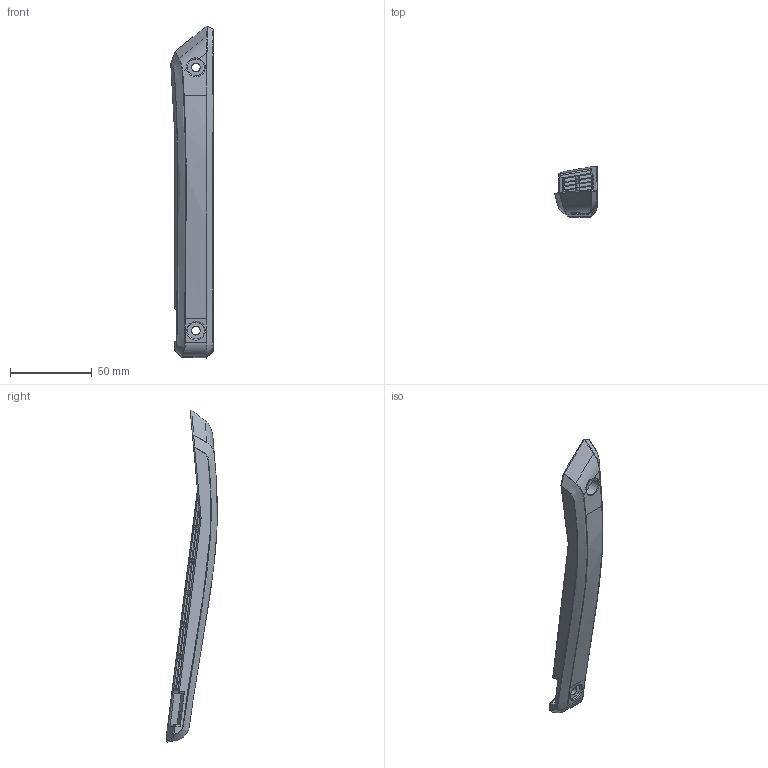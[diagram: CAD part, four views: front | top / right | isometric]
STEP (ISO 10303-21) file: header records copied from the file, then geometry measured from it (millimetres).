
FILE_DESCRIPTION((''),'2;1');
FILE_NAME('P6L0001','2024-11-23T14:41:48',('43322'),(''),'CREO PARAMETRIC BY PTC INC, 2023073','CREO PARAMETRIC BY PTC INC, 2023073','');
FILE_SCHEMA(('CONFIG_CONTROL_DESIGN'));
Products named in the file (1): P6L0001
Bounding box: 26.08 x 31.27 x 203.61 mm (x, y, z)
Volume: 29487.5 mm3; surface area: 19967.7 mm2
Topology: 1 solids, 1 shells, 496 faces, 1076 edges, 595 vertices
Faces by surface type: bspline 310, sphere 78, extrusion 69, plane 19, cylinder 16, cone 4
Entity records: 31833 total; most frequent: CARTESIAN_POINT 23307, ORIENTED_EDGE 2152, DIRECTION 1135, EDGE_CURVE 1076, B_SPLINE_CURVE_WITH_KNOTS 683, VERTEX_POINT 595, EDGE_LOOP 513, FACE_OUTER_BOUND 496
